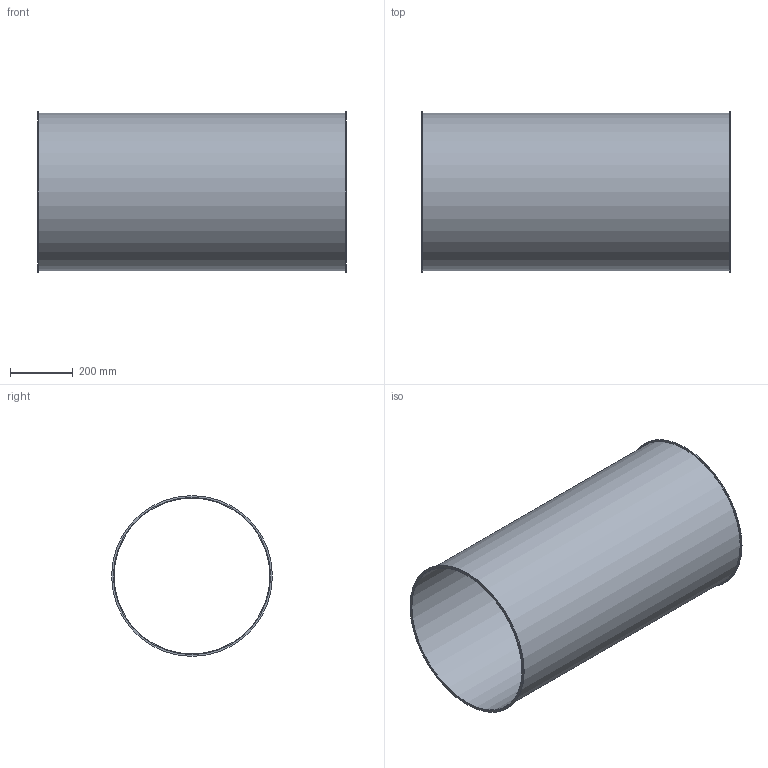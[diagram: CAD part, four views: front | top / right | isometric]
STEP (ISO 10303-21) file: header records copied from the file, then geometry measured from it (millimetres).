
FILE_DESCRIPTION((''),'2;1');
FILE_NAME('U:\Wolfgang\Marcel-3D\fertig\Kapitel 1\5021002.stp','2010-05-31T12:37:04',('TK2'),(''),'Autodesk Inventor 2010','Autodesk Inventor 2010','');
FILE_SCHEMA(('AUTOMOTIVE_DESIGN { 1 0 10303 214 1 1 1 1 }'));
Length unit declared in the file: millimetre
Products named in the file (1): 5021002
Bounding box: 986 x 514 x 514 mm (x, y, z)
Volume: 3135912.7 mm3; surface area: 3142346.6 mm2
Topology: 1 solids, 1 shells, 8 faces, 12 edges, 8 vertices
Faces by surface type: cylinder 4, plane 4
Full cylindrical faces by diameter (mm): 498 x1, 502 x1, 514 x2
Entity records: 194 total; most frequent: DIRECTION 34, CARTESIAN_POINT 25, AXIS2_PLACEMENT_3D 17, ORIENTED_EDGE 16, EDGE_LOOP 16, VERTEX_POINT 8, CIRCLE 8, EDGE_CURVE 8
